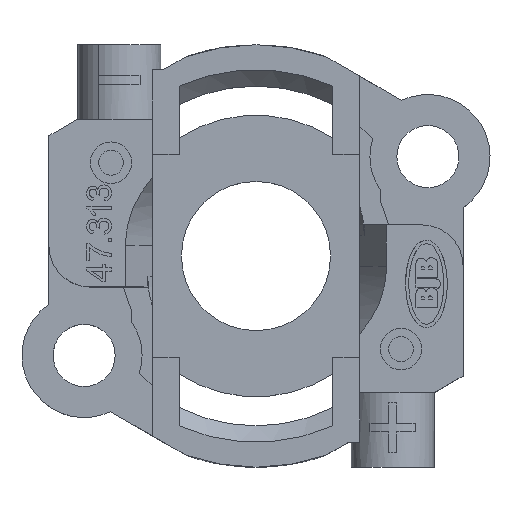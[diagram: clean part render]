
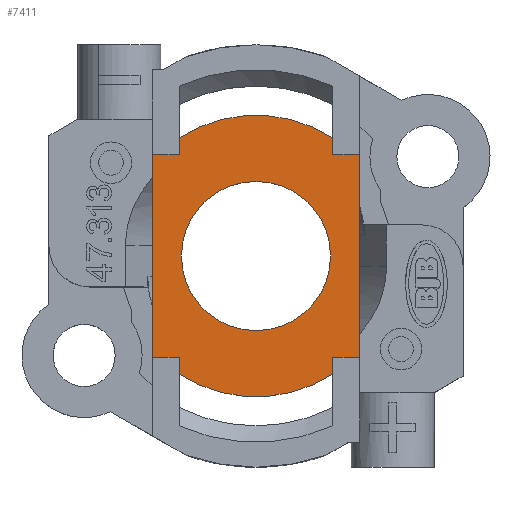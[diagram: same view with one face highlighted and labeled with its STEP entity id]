
A CAD part, top view. The second image highlights one B-rep face of the part: STEP entity #7411.
In plain terms, the highlighted planar face has unit normal (0, 0, 1).
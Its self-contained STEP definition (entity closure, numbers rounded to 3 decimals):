
#2851=CARTESIAN_POINT(' ',(5.,-4.899,1.7));
#2852=VERTEX_POINT(' ',#2851);
#3041=CARTESIAN_POINT(' ',(5.,4.899,1.7));
#3042=VERTEX_POINT(' ',#3041);
#3056=CARTESIAN_POINT(' ',(5.,-4.899,1.7));
#3061=DIRECTION(' ',(0.,1.,0.));
#3066=VECTOR(' ',#3061,1.);
#3071=LINE(' ',#3056,#3066);
#3076=EDGE_CURVE(' ',#2852,#3042,#3071,.T.);
#6116=CARTESIAN_POINT(' ',(5.,-4.899,1.7));
#6121=DIRECTION(' ',(-1.,0.,0.));
#6126=VECTOR(' ',#6121,1.);
#6131=LINE(' ',#6116,#6126);
#6136=CARTESIAN_POINT(' ',(3.7,-4.899,1.7));
#6137=VERTEX_POINT(' ',#6136);
#6141=EDGE_CURVE(' ',#2852,#6137,#6131,.T.);
#6751=CARTESIAN_POINT(' ',(5.,4.899,1.7));
#6756=DIRECTION(' ',(-1.,0.,0.));
#6761=VECTOR(' ',#6756,1.);
#6766=LINE(' ',#6751,#6761);
#6771=CARTESIAN_POINT(' ',(3.7,4.899,1.7));
#6772=VERTEX_POINT(' ',#6771);
#6776=EDGE_CURVE(' ',#3042,#6772,#6766,.T.);
#6951=CARTESIAN_POINT(' ',(5.,-6.824,1.7));
#6956=DIRECTION(' ',(0.,0.,1.));
#6961=DIRECTION(' ',(0.,1.,0.));
#6966=AXIS2_PLACEMENT_3D(' ',#6951,#6956,#6961);
#6971=PLANE(' ',#6966);
#6976=CARTESIAN_POINT(' ',(-5.,4.899,1.7));
#6981=DIRECTION(' ',(0.,-1.,0.));
#6986=VECTOR(' ',#6981,1.);
#6991=LINE(' ',#6976,#6986);
#6996=CARTESIAN_POINT(' ',(-5.,4.899,1.7));
#6997=VERTEX_POINT(' ',#6996);
#7001=CARTESIAN_POINT(' ',(-5.,-4.899,1.7));
#7002=VERTEX_POINT(' ',#7001);
#7006=EDGE_CURVE(' ',#6997,#7002,#6991,.T.);
#7011=ORIENTED_EDGE(' ',*,*,#7006,.T.);
#7016=CARTESIAN_POINT(' ',(-5.,-4.899,1.7));
#7021=DIRECTION(' ',(1.,0.,0.));
#7026=VECTOR(' ',#7021,1.);
#7031=LINE(' ',#7016,#7026);
#7036=CARTESIAN_POINT(' ',(-3.7,-4.899,1.7));
#7037=VERTEX_POINT(' ',#7036);
#7041=EDGE_CURVE(' ',#7002,#7037,#7031,.T.);
#7046=ORIENTED_EDGE(' ',*,*,#7041,.T.);
#7051=CARTESIAN_POINT(' ',(-3.7,-4.899,1.7));
#7056=DIRECTION(' ',(0.,-1.,0.));
#7061=VECTOR(' ',#7056,1.);
#7066=LINE(' ',#7051,#7061);
#7071=CARTESIAN_POINT(' ',(-3.7,-5.705,1.7));
#7072=VERTEX_POINT(' ',#7071);
#7076=EDGE_CURVE(' ',#7037,#7072,#7066,.T.);
#7081=ORIENTED_EDGE(' ',*,*,#7076,.T.);
#7086=CARTESIAN_POINT(' ',(0.,0.,1.7));
#7091=DIRECTION(' ',(0.,0.,-1.));
#7096=DIRECTION(' ',(0.544,-0.839,0.));
#7101=AXIS2_PLACEMENT_3D(' ',#7086,#7091,#7096);
#7106=CIRCLE(' ',#7101,6.8);
#7111=CARTESIAN_POINT(' ',(3.7,-5.705,1.7));
#7112=VERTEX_POINT(' ',#7111);
#7116=EDGE_CURVE(' ',#7112,#7072,#7106,.T.);
#7121=ORIENTED_EDGE(' ',*,*,#7116,.F.);
#7126=CARTESIAN_POINT(' ',(3.7,-4.899,1.7));
#7131=DIRECTION(' ',(0.,-1.,0.));
#7136=VECTOR(' ',#7131,1.);
#7141=LINE(' ',#7126,#7136);
#7146=EDGE_CURVE(' ',#6137,#7112,#7141,.T.);
#7151=ORIENTED_EDGE(' ',*,*,#7146,.F.);
#7156=ORIENTED_EDGE(' ',*,*,#6141,.F.);
#7161=ORIENTED_EDGE(' ',*,*,#3076,.T.);
#7166=ORIENTED_EDGE(' ',*,*,#6776,.T.);
#7171=CARTESIAN_POINT(' ',(3.7,4.899,1.7));
#7176=DIRECTION(' ',(0.,1.,0.));
#7181=VECTOR(' ',#7176,1.);
#7186=LINE(' ',#7171,#7181);
#7191=CARTESIAN_POINT(' ',(3.7,5.705,1.7));
#7192=VERTEX_POINT(' ',#7191);
#7196=EDGE_CURVE(' ',#6772,#7192,#7186,.T.);
#7201=ORIENTED_EDGE(' ',*,*,#7196,.T.);
#7206=CARTESIAN_POINT(' ',(0.,0.,1.7));
#7211=DIRECTION(' ',(0.,0.,-1.));
#7216=DIRECTION(' ',(-0.544,0.839,0.));
#7221=AXIS2_PLACEMENT_3D(' ',#7206,#7211,#7216);
#7226=CIRCLE(' ',#7221,6.8);
#7231=CARTESIAN_POINT(' ',(-3.7,5.705,1.7));
#7232=VERTEX_POINT(' ',#7231);
#7236=EDGE_CURVE(' ',#7232,#7192,#7226,.T.);
#7241=ORIENTED_EDGE(' ',*,*,#7236,.F.);
#7246=CARTESIAN_POINT(' ',(-3.7,4.899,1.7));
#7251=DIRECTION(' ',(0.,1.,0.));
#7256=VECTOR(' ',#7251,1.);
#7261=LINE(' ',#7246,#7256);
#7266=CARTESIAN_POINT(' ',(-3.7,4.899,1.7));
#7267=VERTEX_POINT(' ',#7266);
#7271=EDGE_CURVE(' ',#7267,#7232,#7261,.T.);
#7276=ORIENTED_EDGE(' ',*,*,#7271,.F.);
#7281=CARTESIAN_POINT(' ',(-5.,4.899,1.7));
#7286=DIRECTION(' ',(1.,0.,0.));
#7291=VECTOR(' ',#7286,1.);
#7296=LINE(' ',#7281,#7291);
#7301=EDGE_CURVE(' ',#6997,#7267,#7296,.T.);
#7306=ORIENTED_EDGE(' ',*,*,#7301,.F.);
#7311=EDGE_LOOP(' ',(#7011,#7046,#7081,#7121,#7151,#7156,#7161,#7166,#7201,#7241,#7276,#7306));
#7316=FACE_OUTER_BOUND(' ',#7311,.T.);
#7321=CARTESIAN_POINT(' ',(0.,0.,1.7));
#7326=DIRECTION(' ',(0.,0.,-1.));
#7331=DIRECTION(' ',(-1.,0.,0.));
#7336=AXIS2_PLACEMENT_3D(' ',#7321,#7326,#7331);
#7341=CIRCLE(' ',#7336,3.6);
#7346=CARTESIAN_POINT(' ',(-3.6,0.,1.7));
#7347=VERTEX_POINT(' ',#7346);
#7351=CARTESIAN_POINT(' ',(3.6,0.,1.7));
#7352=VERTEX_POINT(' ',#7351);
#7356=EDGE_CURVE(' ',#7347,#7352,#7341,.T.);
#7361=ORIENTED_EDGE(' ',*,*,#7356,.T.);
#7366=CARTESIAN_POINT(' ',(0.,0.,1.7));
#7371=DIRECTION(' ',(0.,0.,-1.));
#7376=DIRECTION(' ',(1.,0.,0.));
#7381=AXIS2_PLACEMENT_3D(' ',#7366,#7371,#7376);
#7386=CIRCLE(' ',#7381,3.6);
#7391=EDGE_CURVE(' ',#7352,#7347,#7386,.T.);
#7396=ORIENTED_EDGE(' ',*,*,#7391,.T.);
#7401=EDGE_LOOP(' ',(#7361,#7396));
#7406=FACE_BOUND(' ',#7401,.T.);
#7411=ADVANCED_FACE(' ',(#7316,#7406),#6971,.T.);
